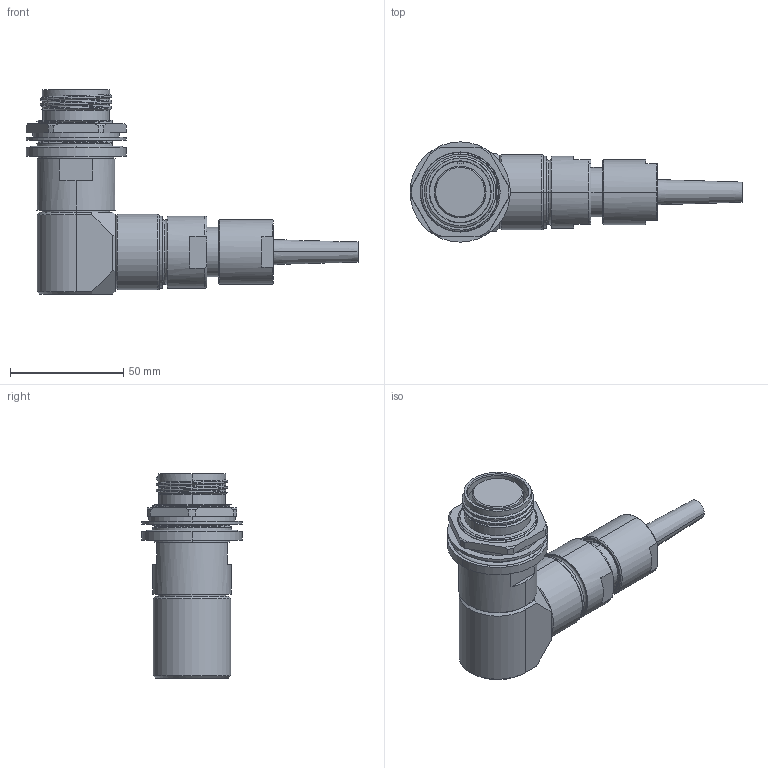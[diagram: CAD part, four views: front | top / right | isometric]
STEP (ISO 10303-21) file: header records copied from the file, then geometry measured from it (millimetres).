
FILE_DESCRIPTION (( 'STEP AP214' ), '1' );
FILE_NAME ('QLINK90-RJTX-19XX-SXXX.STEP', '2025-10-22T15:42:56', ( '' ), ( '' ), 'SwSTEP 2.0', 'SolidWorks 2024', '' );
FILE_SCHEMA (( 'AUTOMOTIVE_DESIGN' ));
Length unit declared in the file: millimetre
Products named in the file (1): QLINK90-RJTX-19XX-SXXX
Bounding box: 146.36 x 44.2 x 90.04 mm (x, y, z)
Volume: 137556.1 mm3; surface area: 32188.8 mm2
Topology: 2 solids, 4 shells, 283 faces, 719 edges, 465 vertices
Faces by surface type: cylinder 87, plane 73, cone 58, bspline 42, torus 23
Entity records: 20984 total; most frequent: CARTESIAN_POINT 14616, ORIENTED_EDGE 1438, DIRECTION 1217, EDGE_CURVE 719, AXIS2_PLACEMENT_3D 493, VERTEX_POINT 465, EDGE_LOOP 314, FACE_OUTER_BOUND 283
